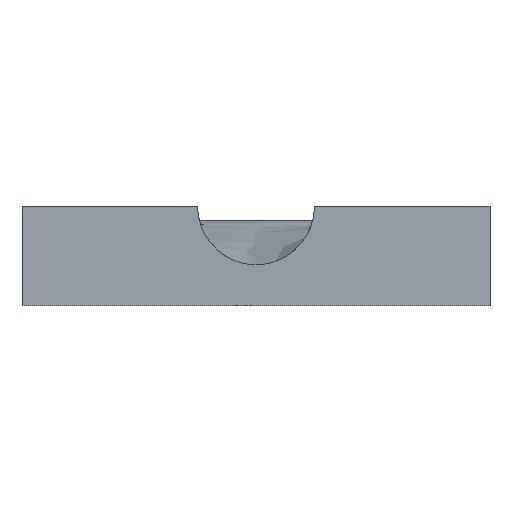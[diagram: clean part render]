
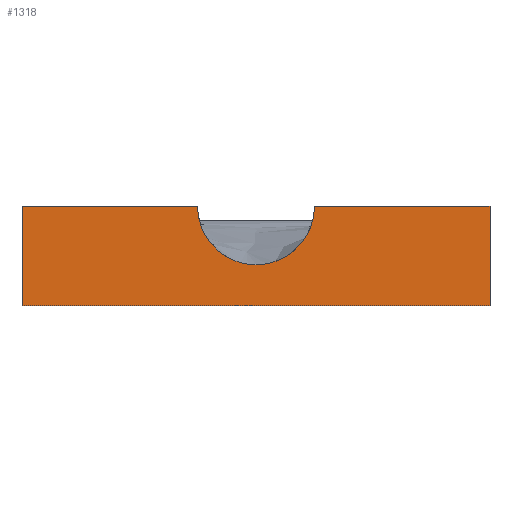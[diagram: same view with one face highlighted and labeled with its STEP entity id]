
A CAD part, front view. The second image highlights one B-rep face of the part: STEP entity #1318.
In plain terms, the highlighted planar face has unit normal (0, -1, 0).
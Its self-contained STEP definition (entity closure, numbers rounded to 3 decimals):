
#97 = CARTESIAN_POINT ( 'NONE',  ( 0., 0., 17. ) ) ;
#110 = CIRCLE ( 'NONE', #881, 10. ) ;
#126 = CARTESIAN_POINT ( 'NONE',  ( 50., 0., 17. ) ) ;
#165 = EDGE_LOOP ( 'NONE', ( #731, #765, #450, #851, #1320, #617, #751 ) ) ;
#182 = EDGE_CURVE ( 'NONE', #830, #1143, #1267, .T. ) ;
#226 = CARTESIAN_POINT ( 'NONE',  ( 80., 0., 17. ) ) ;
#230 = AXIS2_PLACEMENT_3D ( 'NONE', #294, #1028, #386 ) ;
#294 = CARTESIAN_POINT ( 'NONE',  ( 40., 0., 17. ) ) ;
#310 = FACE_OUTER_BOUND ( 'NONE', #165, .T. ) ;
#327 = DIRECTION ( 'NONE',  ( 0., 1., 0. ) ) ;
#362 = VECTOR ( 'NONE', #1132, 1000. ) ;
#386 = DIRECTION ( 'NONE',  ( 0., 0., -1. ) ) ;
#422 = DIRECTION ( 'NONE',  ( 1., 0., 0. ) ) ;
#450 = ORIENTED_EDGE ( 'NONE', *, *, #994, .F. ) ;
#481 = VECTOR ( 'NONE', #1210, 1000. ) ;
#500 = LINE ( 'NONE', #97, #1072 ) ;
#549 = EDGE_CURVE ( 'NONE', #653, #749, #110, .T. ) ;
#583 = EDGE_CURVE ( 'NONE', #1124, #1172, #1016, .T. ) ;
#599 = CARTESIAN_POINT ( 'NONE',  ( 40., 0., 7. ) ) ;
#617 = ORIENTED_EDGE ( 'NONE', *, *, #182, .T. ) ;
#627 = CARTESIAN_POINT ( 'NONE',  ( 0., 0., 17. ) ) ;
#650 = CARTESIAN_POINT ( 'NONE',  ( 0., 0., 17. ) ) ;
#653 = VERTEX_POINT ( 'NONE', #599 ) ;
#720 = EDGE_CURVE ( 'NONE', #749, #996, #1201, .T. ) ;
#723 = LINE ( 'NONE', #226, #1133 ) ;
#731 = ORIENTED_EDGE ( 'NONE', *, *, #720, .F. ) ;
#749 = VERTEX_POINT ( 'NONE', #126 ) ;
#751 = ORIENTED_EDGE ( 'NONE', *, *, #1292, .F. ) ;
#765 = ORIENTED_EDGE ( 'NONE', *, *, #549, .F. ) ;
#768 = PLANE ( 'NONE',  #909 ) ;
#787 = CARTESIAN_POINT ( 'NONE',  ( 0., 0., 17. ) ) ;
#799 = DIRECTION ( 'NONE',  ( 0., -1., 0. ) ) ;
#830 = VERTEX_POINT ( 'NONE', #983 ) ;
#842 = VECTOR ( 'NONE', #422, 1000. ) ;
#844 = CARTESIAN_POINT ( 'NONE',  ( 80., 0., 0. ) ) ;
#851 = ORIENTED_EDGE ( 'NONE', *, *, #583, .F. ) ;
#881 = AXIS2_PLACEMENT_3D ( 'NONE', #999, #799, #1020 ) ;
#909 = AXIS2_PLACEMENT_3D ( 'NONE', #1185, #327, #1090 ) ;
#983 = CARTESIAN_POINT ( 'NONE',  ( 0., 0., 0. ) ) ;
#987 = EDGE_CURVE ( 'NONE', #1124, #830, #500, .T. ) ;
#994 = EDGE_CURVE ( 'NONE', #1172, #653, #1324, .T. ) ;
#996 = VERTEX_POINT ( 'NONE', #1150 ) ;
#999 = CARTESIAN_POINT ( 'NONE',  ( 40., 0., 17. ) ) ;
#1016 = LINE ( 'NONE', #787, #362 ) ;
#1020 = DIRECTION ( 'NONE',  ( 0., 0., -1. ) ) ;
#1028 = DIRECTION ( 'NONE',  ( 0., -1., 0. ) ) ;
#1072 = VECTOR ( 'NONE', #1148, 1000. ) ;
#1090 = DIRECTION ( 'NONE',  ( 0., 0., 1. ) ) ;
#1124 = VERTEX_POINT ( 'NONE', #627 ) ;
#1132 = DIRECTION ( 'NONE',  ( 1., 0., 0. ) ) ;
#1133 = VECTOR ( 'NONE', #1180, 1000. ) ;
#1143 = VERTEX_POINT ( 'NONE', #844 ) ;
#1148 = DIRECTION ( 'NONE',  ( 0., 0., -1. ) ) ;
#1150 = CARTESIAN_POINT ( 'NONE',  ( 80., 0., 17. ) ) ;
#1172 = VERTEX_POINT ( 'NONE', #1274 ) ;
#1180 = DIRECTION ( 'NONE',  ( 0., 0., -1. ) ) ;
#1185 = CARTESIAN_POINT ( 'NONE',  ( 0., 0., 17. ) ) ;
#1201 = LINE ( 'NONE', #650, #842 ) ;
#1210 = DIRECTION ( 'NONE',  ( 1., 0., 0. ) ) ;
#1212 = CARTESIAN_POINT ( 'NONE',  ( 0., 0., 0. ) ) ;
#1267 = LINE ( 'NONE', #1212, #481 ) ;
#1274 = CARTESIAN_POINT ( 'NONE',  ( 30., 0., 17. ) ) ;
#1292 = EDGE_CURVE ( 'NONE', #996, #1143, #723, .T. ) ;
#1318 = ADVANCED_FACE ( 'NONE', ( #310 ), #768, .F. ) ;
#1320 = ORIENTED_EDGE ( 'NONE', *, *, #987, .T. ) ;
#1324 = CIRCLE ( 'NONE', #230, 10. ) ;
